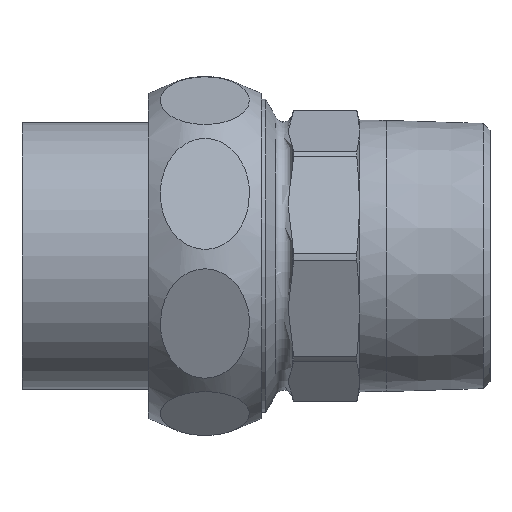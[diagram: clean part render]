
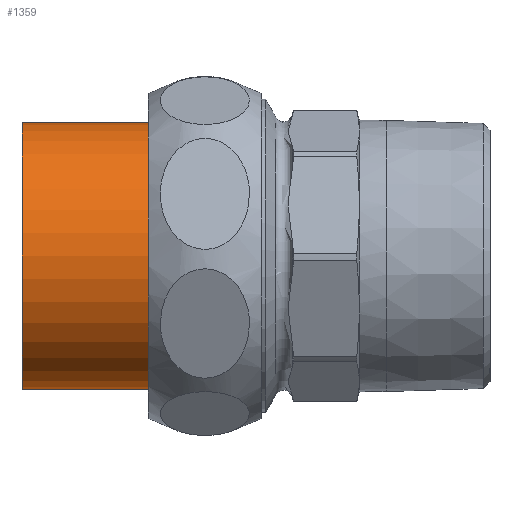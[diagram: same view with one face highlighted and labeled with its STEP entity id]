
A CAD part, front view. The second image highlights one B-rep face of the part: STEP entity #1359.
In plain terms, the highlighted cylindrical face has radius 29.5 mm (diameter 59 mm), a full revolution.
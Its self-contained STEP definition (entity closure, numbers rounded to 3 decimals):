
#161=LINE('',#2151,#217);
#217=VECTOR('',#1723,29.5);
#273=CYLINDRICAL_SURFACE('',#1524,29.5);
#292=FACE_OUTER_BOUND('',#370,.T.);
#370=EDGE_LOOP('',(#938,#939,#940,#941,#942,#943,#944));
#464=CIRCLE('',#1518,29.5);
#468=CIRCLE('',#1522,29.5);
#469=CIRCLE('',#1523,29.5);
#470=CIRCLE('',#1525,29.5);
#471=CIRCLE('',#1526,29.5);
#568=VERTEX_POINT('',#2138);
#569=VERTEX_POINT('',#2139);
#572=VERTEX_POINT('',#2146);
#573=VERTEX_POINT('',#2150);
#574=VERTEX_POINT('',#2152);
#719=EDGE_CURVE('',#568,#569,#464,.T.);
#723=EDGE_CURVE('',#569,#572,#468,.T.);
#724=EDGE_CURVE('',#572,#568,#469,.T.);
#725=EDGE_CURVE('',#572,#573,#161,.T.);
#726=EDGE_CURVE('',#573,#574,#470,.T.);
#727=EDGE_CURVE('',#574,#573,#471,.T.);
#938=ORIENTED_EDGE('',*,*,#719,.F.);
#939=ORIENTED_EDGE('',*,*,#724,.F.);
#940=ORIENTED_EDGE('',*,*,#725,.T.);
#941=ORIENTED_EDGE('',*,*,#726,.T.);
#942=ORIENTED_EDGE('',*,*,#727,.T.);
#943=ORIENTED_EDGE('',*,*,#725,.F.);
#944=ORIENTED_EDGE('',*,*,#723,.F.);
#1359=ADVANCED_FACE('',(#292),#273,.T.);
#1518=AXIS2_PLACEMENT_3D('',#2140,#1709,#1710);
#1522=AXIS2_PLACEMENT_3D('',#2147,#1717,#1718);
#1523=AXIS2_PLACEMENT_3D('',#2148,#1719,#1720);
#1524=AXIS2_PLACEMENT_3D('',#2149,#1721,#1722);
#1525=AXIS2_PLACEMENT_3D('',#2153,#1724,#1725);
#1526=AXIS2_PLACEMENT_3D('',#2154,#1726,#1727);
#1709=DIRECTION('center_axis',(1.,0.,0.));
#1710=DIRECTION('ref_axis',(0.,-1.,0.));
#1717=DIRECTION('center_axis',(1.,0.,0.));
#1718=DIRECTION('ref_axis',(0.,-1.,0.));
#1719=DIRECTION('center_axis',(1.,0.,0.));
#1720=DIRECTION('ref_axis',(0.,-1.,0.));
#1721=DIRECTION('center_axis',(1.,0.,0.));
#1722=DIRECTION('ref_axis',(0.,1.,0.));
#1723=DIRECTION('',(-1.,0.,0.));
#1724=DIRECTION('center_axis',(1.,0.,0.));
#1725=DIRECTION('ref_axis',(0.,1.,0.));
#1726=DIRECTION('center_axis',(1.,0.,0.));
#1727=DIRECTION('ref_axis',(0.,1.,0.));
#2138=CARTESIAN_POINT('',(10.5,29.5,0.));
#2139=CARTESIAN_POINT('',(10.5,0.,29.5));
#2140=CARTESIAN_POINT('Origin',(10.5,0.,0.));
#2146=CARTESIAN_POINT('',(10.5,-29.5,0.));
#2147=CARTESIAN_POINT('Origin',(10.5,0.,0.));
#2148=CARTESIAN_POINT('Origin',(10.5,0.,0.));
#2149=CARTESIAN_POINT('Origin',(-5.5,0.,0.));
#2150=CARTESIAN_POINT('',(-22.,-29.5,0.));
#2151=CARTESIAN_POINT('',(-5.5,-29.5,0.));
#2152=CARTESIAN_POINT('',(-22.,29.5,0.));
#2153=CARTESIAN_POINT('Origin',(-22.,0.,0.));
#2154=CARTESIAN_POINT('Origin',(-22.,0.,0.));
